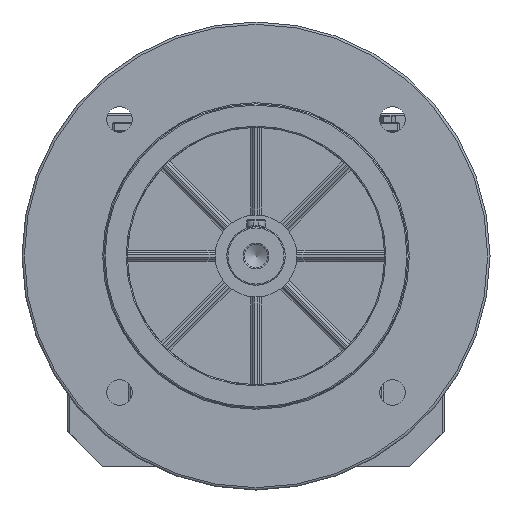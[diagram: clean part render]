
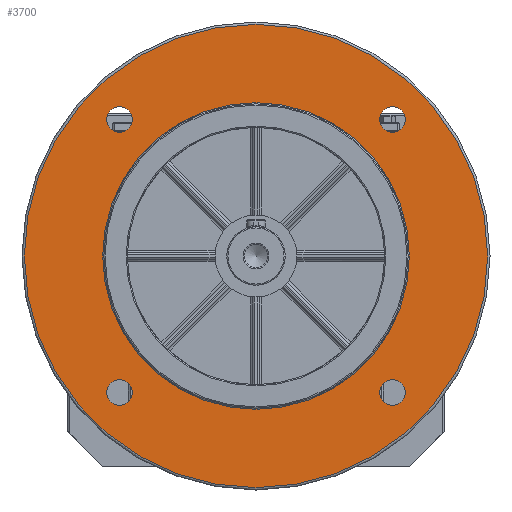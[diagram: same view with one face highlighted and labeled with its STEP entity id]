
A CAD part, front view. The second image highlights one B-rep face of the part: STEP entity #3700.
In plain terms, the highlighted planar face has unit normal (0, -1, 0).
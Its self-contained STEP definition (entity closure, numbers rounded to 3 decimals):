
#94=CARTESIAN_POINT('',(-52.836,-90.0,31.664));
#95=VERTEX_POINT('',#94);
#96=CARTESIAN_POINT('',(-58.336,-90.0,31.664));
#97=DIRECTION('',(0.0,1.0,0.0));
#98=DIRECTION('',(1.0,0.0,0.0));
#99=AXIS2_PLACEMENT_3D('',#96,#97,#98);
#100=CIRCLE('',#99,5.5);
#101=EDGE_CURVE('',#95,#95,#100,.T.);
#143=CARTESIAN_POINT('',(-52.836,-90.0,148.336));
#144=VERTEX_POINT('',#143);
#145=CARTESIAN_POINT('',(-58.336,-90.0,148.336));
#146=DIRECTION('',(0.0,1.0,0.0));
#147=DIRECTION('',(1.0,0.0,0.0));
#148=AXIS2_PLACEMENT_3D('',#145,#146,#147);
#149=CIRCLE('',#148,5.5);
#150=EDGE_CURVE('',#144,#144,#149,.T.);
#192=CARTESIAN_POINT('',(63.836,-90.0,148.336));
#193=VERTEX_POINT('',#192);
#194=CARTESIAN_POINT('',(58.336,-90.0,148.336));
#195=DIRECTION('',(0.0,1.0,0.0));
#196=DIRECTION('',(1.0,0.0,0.0));
#197=AXIS2_PLACEMENT_3D('',#194,#195,#196);
#198=CIRCLE('',#197,5.5);
#199=EDGE_CURVE('',#193,#193,#198,.T.);
#241=CARTESIAN_POINT('',(63.836,-90.0,31.664));
#242=VERTEX_POINT('',#241);
#243=CARTESIAN_POINT('',(58.336,-90.0,31.664));
#244=DIRECTION('',(0.0,1.0,0.0));
#245=DIRECTION('',(1.0,0.0,0.0));
#246=AXIS2_PLACEMENT_3D('',#243,#244,#245);
#247=CIRCLE('',#246,5.5);
#248=EDGE_CURVE('',#242,#242,#247,.T.);
#3654=CARTESIAN_POINT('',(0.0,-90.0,189.0));
#3655=VERTEX_POINT('',#3654);
#3656=CARTESIAN_POINT('',(0.0,-90.0,90.0));
#3657=DIRECTION('',(0.0,1.0,0.0));
#3658=DIRECTION('',(0.0,0.0,-1.0));
#3659=AXIS2_PLACEMENT_3D('',#3656,#3657,#3658);
#3660=CIRCLE('',#3659,99.0);
#3661=EDGE_CURVE('',#3655,#3655,#3660,.T.);
#3669=CARTESIAN_POINT('',(0.0,-90.0,172.5));
#3670=DIRECTION('',(0.0,-1.0,0.0));
#3671=DIRECTION('',(0.0,0.0,-1.0));
#3672=AXIS2_PLACEMENT_3D('',#3669,#3670,#3671);
#3673=PLANE('',#3672);
#3674=ORIENTED_EDGE('',*,*,#3661,.F.);
#3675=EDGE_LOOP('',(#3674));
#3676=FACE_OUTER_BOUND('',#3675,.T.);
#3677=ORIENTED_EDGE('',*,*,#101,.T.);
#3678=EDGE_LOOP('',(#3677));
#3679=FACE_BOUND('',#3678,.T.);
#3680=ORIENTED_EDGE('',*,*,#150,.T.);
#3681=EDGE_LOOP('',(#3680));
#3682=FACE_BOUND('',#3681,.T.);
#3683=ORIENTED_EDGE('',*,*,#199,.T.);
#3684=EDGE_LOOP('',(#3683));
#3685=FACE_BOUND('',#3684,.T.);
#3686=ORIENTED_EDGE('',*,*,#248,.T.);
#3687=EDGE_LOOP('',(#3686));
#3688=FACE_BOUND('',#3687,.T.);
#3689=CARTESIAN_POINT('',(0.,-90.0,155.5));
#3690=VERTEX_POINT('',#3689);
#3691=CARTESIAN_POINT('',(0.0,-90.0,90.0));
#3692=DIRECTION('',(0.0,-1.0,0.0));
#3693=DIRECTION('',(0.0,0.0,-1.0));
#3694=AXIS2_PLACEMENT_3D('',#3691,#3692,#3693);
#3695=CIRCLE('',#3694,65.5);
#3696=EDGE_CURVE('',#3690,#3690,#3695,.T.);
#3697=ORIENTED_EDGE('',*,*,#3696,.F.);
#3698=EDGE_LOOP('',(#3697));
#3699=FACE_BOUND('',#3698,.T.);
#3700=ADVANCED_FACE('',(#3676,#3679,#3682,#3685,#3688,#3699),#3673,.T.);
